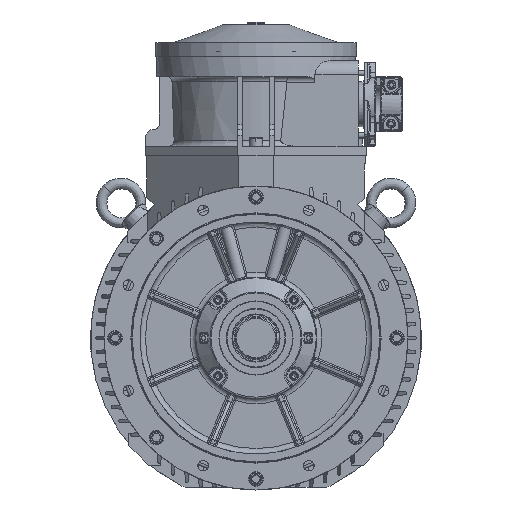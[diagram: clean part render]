
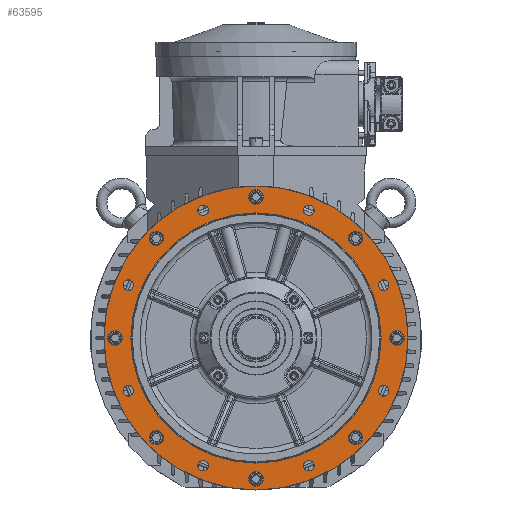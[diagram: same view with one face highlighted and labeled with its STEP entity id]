
A CAD part, left-side view. The second image highlights one B-rep face of the part: STEP entity #63595.
In plain terms, the highlighted planar face has unit normal (-1, 0, 0).
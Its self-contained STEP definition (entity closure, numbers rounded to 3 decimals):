
#1328=PLANE('',#67442);
#8907=CIRCLE('',#67430,275.);
#8908=CIRCLE('',#67440,226.4);
#8910=CIRCLE('',#67443,9.5);
#8911=CIRCLE('',#67444,9.5);
#8912=CIRCLE('',#67445,9.5);
#8913=CIRCLE('',#67446,9.5);
#8914=CIRCLE('',#67447,9.5);
#8915=CIRCLE('',#67448,9.5);
#8916=CIRCLE('',#67449,9.5);
#8917=CIRCLE('',#67450,9.5);
#8918=CIRCLE('',#67451,13.);
#8919=CIRCLE('',#67452,13.);
#8920=CIRCLE('',#67453,13.);
#8921=CIRCLE('',#67454,13.);
#8922=CIRCLE('',#67455,13.);
#8923=CIRCLE('',#67456,13.);
#8924=CIRCLE('',#67457,13.);
#8925=CIRCLE('',#67458,13.);
#16166=ORIENTED_EDGE('',*,*,#26444,.F.);
#16167=ORIENTED_EDGE('',*,*,#26445,.F.);
#16168=ORIENTED_EDGE('',*,*,#26446,.F.);
#16169=ORIENTED_EDGE('',*,*,#26447,.F.);
#16170=ORIENTED_EDGE('',*,*,#26448,.F.);
#16171=ORIENTED_EDGE('',*,*,#26449,.F.);
#16172=ORIENTED_EDGE('',*,*,#26450,.F.);
#16173=ORIENTED_EDGE('',*,*,#26451,.F.);
#16174=ORIENTED_EDGE('',*,*,#26452,.T.);
#16175=ORIENTED_EDGE('',*,*,#26453,.T.);
#16176=ORIENTED_EDGE('',*,*,#26454,.T.);
#16177=ORIENTED_EDGE('',*,*,#26455,.T.);
#16178=ORIENTED_EDGE('',*,*,#26456,.T.);
#16179=ORIENTED_EDGE('',*,*,#26457,.T.);
#16180=ORIENTED_EDGE('',*,*,#26458,.T.);
#16181=ORIENTED_EDGE('',*,*,#26459,.T.);
#16182=ORIENTED_EDGE('',*,*,#26440,.T.);
#16183=ORIENTED_EDGE('',*,*,#26442,.F.);
#26440=EDGE_CURVE('',#31947,#31947,#8907,.T.);
#26442=EDGE_CURVE('',#31949,#31949,#8908,.T.);
#26444=EDGE_CURVE('',#31951,#31951,#8910,.T.);
#26445=EDGE_CURVE('',#31952,#31952,#8911,.T.);
#26446=EDGE_CURVE('',#31953,#31953,#8912,.T.);
#26447=EDGE_CURVE('',#31954,#31954,#8913,.T.);
#26448=EDGE_CURVE('',#31955,#31955,#8914,.T.);
#26449=EDGE_CURVE('',#31956,#31956,#8915,.T.);
#26450=EDGE_CURVE('',#31957,#31957,#8916,.T.);
#26451=EDGE_CURVE('',#31958,#31958,#8917,.T.);
#26452=EDGE_CURVE('',#31959,#31959,#8918,.T.);
#26453=EDGE_CURVE('',#31960,#31960,#8919,.T.);
#26454=EDGE_CURVE('',#31961,#31961,#8920,.T.);
#26455=EDGE_CURVE('',#31962,#31962,#8921,.T.);
#26456=EDGE_CURVE('',#31963,#31963,#8922,.T.);
#26457=EDGE_CURVE('',#31964,#31964,#8923,.T.);
#26458=EDGE_CURVE('',#31965,#31965,#8924,.T.);
#26459=EDGE_CURVE('',#31966,#31966,#8925,.T.);
#31947=VERTEX_POINT('',#92475);
#31949=VERTEX_POINT('',#92498);
#31951=VERTEX_POINT('',#92503);
#31952=VERTEX_POINT('',#92505);
#31953=VERTEX_POINT('',#92507);
#31954=VERTEX_POINT('',#92509);
#31955=VERTEX_POINT('',#92511);
#31956=VERTEX_POINT('',#92513);
#31957=VERTEX_POINT('',#92515);
#31958=VERTEX_POINT('',#92517);
#31959=VERTEX_POINT('',#92519);
#31960=VERTEX_POINT('',#92521);
#31961=VERTEX_POINT('',#92523);
#31962=VERTEX_POINT('',#92525);
#31963=VERTEX_POINT('',#92527);
#31964=VERTEX_POINT('',#92529);
#31965=VERTEX_POINT('',#92531);
#31966=VERTEX_POINT('',#92533);
#36486=EDGE_LOOP('',(#16166));
#36487=EDGE_LOOP('',(#16167));
#36488=EDGE_LOOP('',(#16168));
#36489=EDGE_LOOP('',(#16169));
#36490=EDGE_LOOP('',(#16170));
#36491=EDGE_LOOP('',(#16171));
#36492=EDGE_LOOP('',(#16172));
#36493=EDGE_LOOP('',(#16173));
#36494=EDGE_LOOP('',(#16174));
#36495=EDGE_LOOP('',(#16175));
#36496=EDGE_LOOP('',(#16176));
#36497=EDGE_LOOP('',(#16177));
#36498=EDGE_LOOP('',(#16178));
#36499=EDGE_LOOP('',(#16179));
#36500=EDGE_LOOP('',(#16180));
#36501=EDGE_LOOP('',(#16181));
#36502=EDGE_LOOP('',(#16182));
#36503=EDGE_LOOP('',(#16183));
#39831=FACE_BOUND('',#36486,.T.);
#39832=FACE_BOUND('',#36487,.T.);
#39833=FACE_BOUND('',#36488,.T.);
#39834=FACE_BOUND('',#36489,.T.);
#39835=FACE_BOUND('',#36490,.T.);
#39836=FACE_BOUND('',#36491,.T.);
#39837=FACE_BOUND('',#36492,.T.);
#39838=FACE_BOUND('',#36493,.T.);
#39839=FACE_BOUND('',#36494,.T.);
#39840=FACE_BOUND('',#36495,.T.);
#39841=FACE_BOUND('',#36496,.T.);
#39842=FACE_BOUND('',#36497,.T.);
#39843=FACE_BOUND('',#36498,.T.);
#39844=FACE_BOUND('',#36499,.T.);
#39845=FACE_BOUND('',#36500,.T.);
#39846=FACE_BOUND('',#36501,.T.);
#39847=FACE_BOUND('',#36502,.T.);
#39848=FACE_BOUND('',#36503,.T.);
#63595=ADVANCED_FACE('',(#39831,#39832,#39833,#39834,#39835,#39836,#39837,
#39838,#39839,#39840,#39841,#39842,#39843,#39844,#39845,#39846,#39847,#39848),
#1328,.T.);
#67430=AXIS2_PLACEMENT_3D('',#92474,#76181,#76182);
#67440=AXIS2_PLACEMENT_3D('',#92497,#76201,#76202);
#67442=AXIS2_PLACEMENT_3D('',#92501,#76205,#76206);
#67443=AXIS2_PLACEMENT_3D('',#92502,#76207,#76208);
#67444=AXIS2_PLACEMENT_3D('',#92504,#76209,#76210);
#67445=AXIS2_PLACEMENT_3D('',#92506,#76211,#76212);
#67446=AXIS2_PLACEMENT_3D('',#92508,#76213,#76214);
#67447=AXIS2_PLACEMENT_3D('',#92510,#76215,#76216);
#67448=AXIS2_PLACEMENT_3D('',#92512,#76217,#76218);
#67449=AXIS2_PLACEMENT_3D('',#92514,#76219,#76220);
#67450=AXIS2_PLACEMENT_3D('',#92516,#76221,#76222);
#67451=AXIS2_PLACEMENT_3D('',#92518,#76223,#76224);
#67452=AXIS2_PLACEMENT_3D('',#92520,#76225,#76226);
#67453=AXIS2_PLACEMENT_3D('',#92522,#76227,#76228);
#67454=AXIS2_PLACEMENT_3D('',#92524,#76229,#76230);
#67455=AXIS2_PLACEMENT_3D('',#92526,#76231,#76232);
#67456=AXIS2_PLACEMENT_3D('',#92528,#76233,#76234);
#67457=AXIS2_PLACEMENT_3D('',#92530,#76235,#76236);
#67458=AXIS2_PLACEMENT_3D('',#92532,#76237,#76238);
#76181=DIRECTION('',(-1.,0.,0.));
#76182=DIRECTION('',(0.,0.,1.));
#76201=DIRECTION('',(-1.,0.,0.));
#76202=DIRECTION('',(0.,0.,1.));
#76205=DIRECTION('',(-1.,0.,0.));
#76206=DIRECTION('',(0.,0.,1.));
#76207=DIRECTION('',(-1.,0.,0.));
#76208=DIRECTION('',(0.,-1.,0.));
#76209=DIRECTION('',(-1.,0.,0.));
#76210=DIRECTION('',(0.,-1.,0.));
#76211=DIRECTION('',(-1.,0.,0.));
#76212=DIRECTION('',(0.,-1.,0.));
#76213=DIRECTION('',(-1.,0.,0.));
#76214=DIRECTION('',(0.,-1.,0.));
#76215=DIRECTION('',(-1.,0.,0.));
#76216=DIRECTION('',(0.,-1.,0.));
#76217=DIRECTION('',(-1.,0.,0.));
#76218=DIRECTION('',(0.,-1.,0.));
#76219=DIRECTION('',(-1.,0.,0.));
#76220=DIRECTION('',(0.,-1.,0.));
#76221=DIRECTION('',(-1.,0.,0.));
#76222=DIRECTION('',(0.,-1.,0.));
#76223=DIRECTION('',(1.,0.,0.));
#76224=DIRECTION('',(0.,0.,1.));
#76225=DIRECTION('',(1.,0.,0.));
#76226=DIRECTION('',(0.,0.,1.));
#76227=DIRECTION('',(1.,0.,0.));
#76228=DIRECTION('',(0.,0.,1.));
#76229=DIRECTION('',(1.,0.,0.));
#76230=DIRECTION('',(0.,0.,1.));
#76231=DIRECTION('',(1.,0.,0.));
#76232=DIRECTION('',(0.,0.,1.));
#76233=DIRECTION('',(1.,0.,0.));
#76234=DIRECTION('',(0.,0.,1.));
#76235=DIRECTION('',(1.,0.,0.));
#76236=DIRECTION('',(0.,0.,1.));
#76237=DIRECTION('',(1.,0.,0.));
#76238=DIRECTION('',(0.,0.,1.));
#92474=CARTESIAN_POINT('',(-64.,0.,0.));
#92475=CARTESIAN_POINT('',(-64.,0.,275.));
#92497=CARTESIAN_POINT('',(-64.,0.,0.));
#92498=CARTESIAN_POINT('',(-64.,0.,226.4));
#92501=CARTESIAN_POINT('',(-64.,0.,226.4));
#92502=CARTESIAN_POINT('',(-64.,-230.97,-95.671));
#92503=CARTESIAN_POINT('',(-64.,-240.47,-95.671));
#92504=CARTESIAN_POINT('',(-64.,-95.671,-230.97));
#92505=CARTESIAN_POINT('',(-64.,-105.171,-230.97));
#92506=CARTESIAN_POINT('',(-64.,95.671,-230.97));
#92507=CARTESIAN_POINT('',(-64.,86.171,-230.97));
#92508=CARTESIAN_POINT('',(-64.,230.97,-95.671));
#92509=CARTESIAN_POINT('',(-64.,221.47,-95.671));
#92510=CARTESIAN_POINT('',(-64.,230.97,95.671));
#92511=CARTESIAN_POINT('',(-64.,221.47,95.671));
#92512=CARTESIAN_POINT('',(-64.,95.671,230.97));
#92513=CARTESIAN_POINT('',(-64.,86.171,230.97));
#92514=CARTESIAN_POINT('',(-64.,-95.671,230.97));
#92515=CARTESIAN_POINT('',(-64.,-105.171,230.97));
#92516=CARTESIAN_POINT('',(-64.,-230.97,95.671));
#92517=CARTESIAN_POINT('',(-64.,-240.47,95.671));
#92518=CARTESIAN_POINT('',(-64.,-180.312,-180.312));
#92519=CARTESIAN_POINT('',(-64.,-180.312,-167.312));
#92520=CARTESIAN_POINT('',(-64.,0.,-255.));
#92521=CARTESIAN_POINT('',(-64.,0.,-242.));
#92522=CARTESIAN_POINT('',(-64.,180.312,-180.312));
#92523=CARTESIAN_POINT('',(-64.,180.312,-167.312));
#92524=CARTESIAN_POINT('',(-64.,255.,0.));
#92525=CARTESIAN_POINT('',(-64.,255.,13.));
#92526=CARTESIAN_POINT('',(-64.,180.312,180.312));
#92527=CARTESIAN_POINT('',(-64.,180.312,193.312));
#92528=CARTESIAN_POINT('',(-64.,0.,255.));
#92529=CARTESIAN_POINT('',(-64.,0.,268.));
#92530=CARTESIAN_POINT('',(-64.,-180.312,180.312));
#92531=CARTESIAN_POINT('',(-64.,-180.312,193.312));
#92532=CARTESIAN_POINT('',(-64.,-255.,0.));
#92533=CARTESIAN_POINT('',(-64.,-255.,13.));
